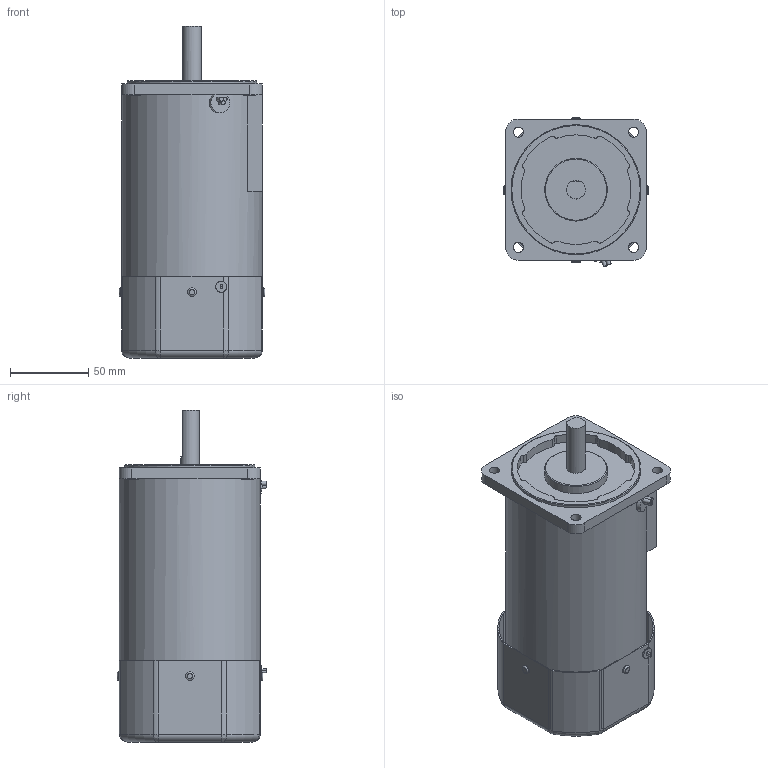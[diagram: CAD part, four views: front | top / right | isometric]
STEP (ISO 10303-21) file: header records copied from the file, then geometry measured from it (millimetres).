
FILE_DESCRIPTION((''),'2;1');
FILE_NAME('E:\2공장-도면\3D\표준형 3D(민규)\step file\SU,SP\K9IS90Fㅁ-Sㅁ.stp','2014-11-14T14:09:29',('AHN'),(''),'Autodesk Inventor 2012','Autodesk Inventor 2012','');
FILE_SCHEMA(('CONFIG_CONTROL_DESIGN'));
Length unit declared in the file: millimetre
Products named in the file (1): K9IS90Fㅁ-Sㅁ
Bounding box: 93 x 95.71 x 212 mm (x, y, z)
Volume: 1047516.4 mm3; surface area: 104604.9 mm2
Topology: 1 solids, 1 shells, 255 faces, 633 edges, 385 vertices
Faces by surface type: cylinder 127, plane 82, torus 38, bspline 8
Full cylindrical faces by diameter (mm): 1.4 x2, 5.5 x4, 6.5 x4, 7 x2, 8 x4, 12 x1, 40 x1, 83 x1, 90 x1
Entity records: 8207 total; most frequent: CARTESIAN_POINT 2131, DIRECTION 1309, ORIENTED_EDGE 1206, EDGE_CURVE 603, AXIS2_PLACEMENT_3D 517, VERTEX_POINT 379, EDGE_LOOP 326, VECTOR 275
